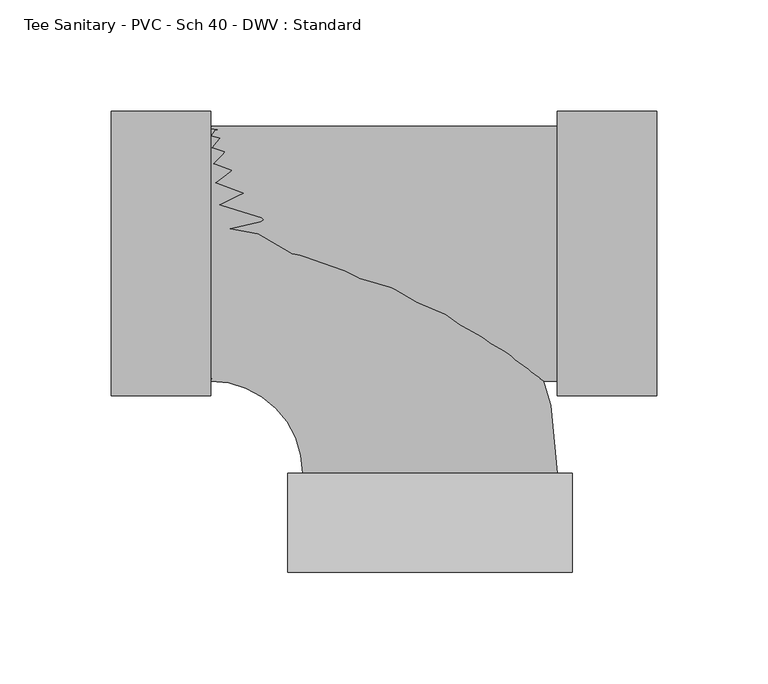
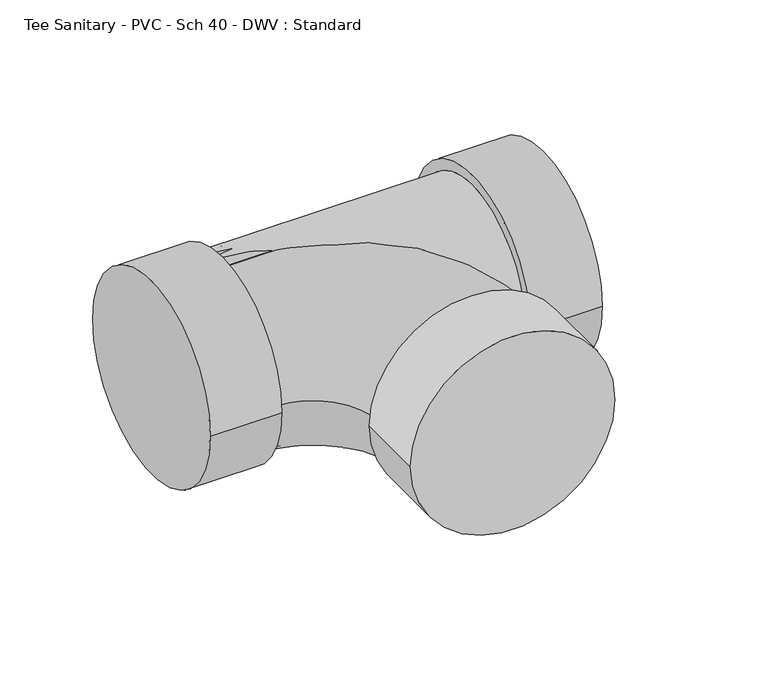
"""IFC4 building model written with IfcOpenShell, lengths in millimetres: pipe fitting geometry, Tee Sanitary - PVC - Sch 40 - DWV : Standard."""

from ifc_helpers import new_model, si_unit, point, frame, origin, place, context, project, spatial, circle_curve, ellipse_curve, trimmed, source, transform, mapped, element, save
from ifc_brep_helpers import plane_surface, cylinder_surface, revolved_surface, advanced_brep


def tee_sanitary_pvc_sch_40_dwv_standard_dcb2d9f4(model_context):
    return source(origin(), model_context, "Body", "AdvancedBrep", [
        advanced_brep(
        [(-98.425, -57.15, 0.0), (-98.425, 57.15, 0.0), (-57.15, -98.425, 0.0), (57.15, -98.425, 0.0), (63.754, -142.875, 0.0), (-63.754, -142.875, 0.0), (63.754, -98.425, 0.0), (-63.754, -98.425, 0.0)],
        [
            (0, 1, circle_curve(frame((-98.425, 0.0, 0.0), z_axis=(-1.0, 0.0, 0.0), x_axis=(0.0, 1.0, 0.0)), 57.15)),
            (1, 0, circle_curve(frame((-98.425, 0.0, 0.0), z_axis=(-1.0, 0.0, 0.0), x_axis=(0.0, 1.0, 0.0)), 57.15)),
            (0, 2, circle_curve(frame((-98.425, -98.425, 0.0), z_axis=(0.0, 0.0, -1.0), x_axis=(0.0, 1.0, 0.0)), 41.275)),
            (2, 3, circle_curve(frame((0.0, -98.425, 0.0), z_axis=(0.0, 1.0, 0.0), x_axis=(1.0, 0.0, 0.0)), 57.15)),
            (3, 1, circle_curve(frame((-98.425, -98.425, 0.0), z_axis=(0.0, 0.0, 1.0), x_axis=(0.0, 1.0, 0.0)), 155.575)),
            (3, 2, circle_curve(frame((0.0, -98.425, 0.0), z_axis=(0.0, 1.0, 0.0), x_axis=(1.0, 0.0, 0.0)), 57.15)),
            (4, 5, circle_curve(frame((0.0, -142.875, 0.0), z_axis=(0.0, -1.0, 0.0), x_axis=(-1.0, 0.0, 0.0)), 63.754)),
            (5, 4, circle_curve(frame((0.0, -142.875, 0.0), z_axis=(0.0, -1.0, 0.0), x_axis=(-1.0, 0.0, 0.0)), 63.754)),
            (6, 7, circle_curve(frame((0.0, -98.425, 0.0), z_axis=(0.0, 1.0, 0.0), x_axis=(-1.0, 0.0, 0.0)), 63.754)),
            (7, 6, circle_curve(frame((0.0, -98.425, 0.0), z_axis=(0.0, 1.0, 0.0), x_axis=(-1.0, 0.0, 0.0)), 63.754)),
            (4, 6),
            (7, 5),
        ],
        [
            plane_surface(frame((-98.425, 0.0, 0.0), z_axis=(-1.0, 0.0, 0.0), x_axis=(0.0, 0.0, 1.0))),
            revolved_surface(trimmed(ellipse_curve(frame((-98.425, 0.0, 0.0), z_axis=(-1.0, 0.0, 0.0), x_axis=(0.0, 1.0, 0.0)), 57.15, 57.15), [point((-98.425, -57.15, 0.0))], [point((-98.425, 57.15, 0.0))], True, "CARTESIAN"), (-98.425, -98.425, 0.0), (0.0, 0.0, -1.0)),
            revolved_surface(trimmed(ellipse_curve(frame((-98.425, 0.0, 0.0), z_axis=(-1.0, 0.0, 0.0), x_axis=(0.0, 1.0, 0.0)), 57.15, 57.15), [point((-98.425, 57.15, 0.0))], [point((-98.425, -57.15, 0.0))], True, "CARTESIAN"), (-98.425, -98.425, 0.0), (0.0, 0.0, -1.0)),
            plane_surface(frame((0.0, -142.875, 0.0), z_axis=(0.0, -1.0, 0.0), x_axis=(0.0, 0.0, 1.0))),
            plane_surface(frame((0.0, -98.425, 0.0), z_axis=(0.0, 1.0, 0.0), x_axis=(0.0, 0.0, 1.0))),
            cylinder_surface(frame((0.0, -142.875, 0.0), z_axis=(0.0, -1.0, 0.0), x_axis=(-1.0, 0.0, 0.0)), 63.754),
        ],
        [
            (0, [[1, 2]]),
            (1, [[-1, 3, 4, 5]]),
            (2, [[-2, -5, 6, -3]]),
            (3, [[7, 8]]),
            (4, [[9, 10], [-4, -6]]),
            (5, [[-7, 11, -10, 12]]),
            (5, [[-8, -12, -9, -11]]),
        ],
    ),
        advanced_brep(
        [(-98.425, -57.15, 0.0), (57.15, -57.15, 0.0), (57.15, 57.15, 0.0), (-98.425, 57.15, 0.0), (57.15, -63.754, 0.0), (57.15, 63.754, 0.0), (101.6, -63.754, 0.0), (101.6, 63.754, 0.0), (-142.875, -63.754, 0.0), (-142.875, 63.754, 0.0), (-98.425, -63.754, 0.0), (-98.425, 63.754, 0.0)],
        [
            (0, 1),
            (1, 2, circle_curve(frame((57.15, 0.0, 0.0), z_axis=(-1.0, 0.0, 0.0), x_axis=(0.0, 1.0, 0.0)), 57.15)),
            (2, 3),
            (3, 0, circle_curve(frame((-98.425, 0.0, 0.0), z_axis=(1.0, 0.0, 0.0), x_axis=(0.0, 1.0, 0.0)), 57.15)),
            (0, 3, circle_curve(frame((-98.425, 0.0, 0.0), z_axis=(1.0, 0.0, 0.0), x_axis=(0.0, 1.0, 0.0)), 57.15)),
            (2, 1, circle_curve(frame((57.15, 0.0, 0.0), z_axis=(-1.0, 0.0, 0.0), x_axis=(0.0, 1.0, 0.0)), 57.15)),
            (4, 5, circle_curve(frame((57.15, 0.0, 0.0), z_axis=(-1.0, 0.0, 0.0), x_axis=(0.0, 1.0, 0.0)), 63.754)),
            (5, 4, circle_curve(frame((57.15, 0.0, 0.0), z_axis=(-1.0, 0.0, 0.0), x_axis=(0.0, 1.0, 0.0)), 63.754)),
            (6, 7, circle_curve(frame((101.6, 0.0, 0.0), z_axis=(1.0, 0.0, 0.0), x_axis=(0.0, 1.0, 0.0)), 63.754)),
            (7, 6, circle_curve(frame((101.6, 0.0, 0.0), z_axis=(1.0, 0.0, 0.0), x_axis=(0.0, 1.0, 0.0)), 63.754)),
            (4, 6),
            (7, 5),
            (8, 9, circle_curve(frame((-142.875, 0.0, 0.0), z_axis=(-1.0, 0.0, 0.0), x_axis=(0.0, 1.0, 0.0)), 63.754)),
            (9, 8, circle_curve(frame((-142.875, 0.0, 0.0), z_axis=(-1.0, 0.0, 0.0), x_axis=(0.0, 1.0, 0.0)), 63.754)),
            (10, 11, circle_curve(frame((-98.425, 0.0, 0.0), z_axis=(1.0, 0.0, 0.0), x_axis=(0.0, 1.0, 0.0)), 63.754)),
            (11, 10, circle_curve(frame((-98.425, 0.0, 0.0), z_axis=(1.0, 0.0, 0.0), x_axis=(0.0, 1.0, 0.0)), 63.754)),
            (8, 10),
            (11, 9),
        ],
        [
            cylinder_surface(frame((-98.425, 0.0, 0.0), z_axis=(-1.0, 0.0, 0.0), x_axis=(0.0, 1.0, 0.0)), 57.15),
            plane_surface(frame((57.15, 0.0, 0.0), z_axis=(-1.0, 0.0, 0.0), x_axis=(0.0, 0.0, 1.0))),
            plane_surface(frame((101.6, 0.0, 0.0), z_axis=(1.0, 0.0, 0.0), x_axis=(0.0, 0.0, 1.0))),
            cylinder_surface(frame((57.15, 0.0, 0.0), z_axis=(-1.0, 0.0, 0.0), x_axis=(0.0, 1.0, 0.0)), 63.754),
            plane_surface(frame((-142.875, 0.0, 0.0), z_axis=(-1.0, 0.0, 0.0), x_axis=(0.0, 0.0, 1.0))),
            plane_surface(frame((-98.425, 0.0, 0.0), z_axis=(1.0, 0.0, 0.0), x_axis=(0.0, 0.0, 1.0))),
            cylinder_surface(frame((-142.875, 0.0, 0.0), z_axis=(-1.0, 0.0, 0.0), x_axis=(0.0, 1.0, 0.0)), 63.754),
        ],
        [
            (0, [[1, 2, 3, 4]]),
            (0, [[-1, 5, -3, 6]]),
            (1, [[7, 8], [-2, -6]]),
            (2, [[9, 10]]),
            (3, [[-7, 11, -10, 12]]),
            (3, [[-8, -12, -9, -11]]),
            (4, [[13, 14]]),
            (5, [[15, 16], [-4, -5]]),
            (6, [[-13, 17, -16, 18]]),
            (6, [[-14, -18, -15, -17]]),
        ],
    ),
    ])


if __name__ == "__main__":
    model = new_model("IFC4")
    model_context = context("Model", 3, world=origin())
    ifc_project = project(units=[si_unit("LENGTHUNIT", "METRE", prefix="MILLI")], contexts=[model_context])
    site = spatial("IfcSite", under=ifc_project)
    building = spatial("IfcBuilding", under=site)
    placement = place(None, origin())
    tee_sanitary_pvc_sch_40_dwv_standard_shape = tee_sanitary_pvc_sch_40_dwv_standard_dcb2d9f4(model_context)
    element("IfcPipeFitting", 1, ObjectType="Tee Sanitary - PVC - Sch 40 - DWV : Standard", at=placement, inside=building, context=model_context, shape_type="MappedRepresentation", body=[
        mapped(tee_sanitary_pvc_sch_40_dwv_standard_shape, transform((0.0, 0.0, 0.0), x_axis=(1.0, 0.0, 0.0), y_axis=(0.0, 1.0, 0.0), z_axis=(0.0, 0.0, 1.0))),
    ])
    save(model, "model.ifc")
